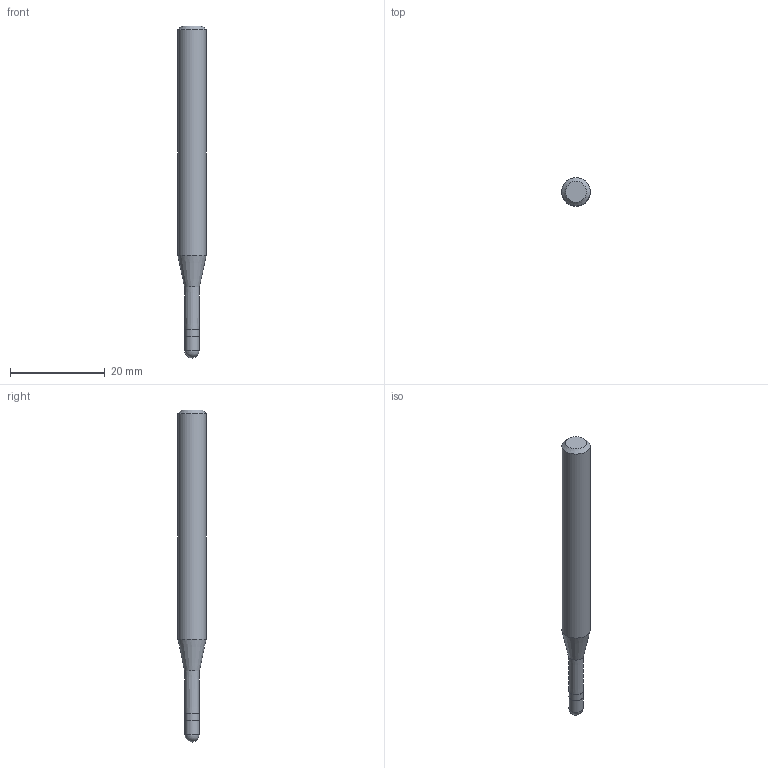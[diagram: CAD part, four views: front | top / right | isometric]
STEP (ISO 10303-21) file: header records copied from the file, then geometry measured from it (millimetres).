
FILE_DESCRIPTION((''),'2;1');
FILE_NAME('C:\Users\nsx150\AppData\Local\Temp\Mastercam 2021\E0ENTZRV18\TEMP.step','2021-09-02T09:57:08',(''),(''),'STEP Write','Mastercam 2021 ... CNC Software, Inc.','');
FILE_SCHEMA(('AUTOMOTIVE_DESIGN'));
Length unit declared in the file: millimetre
Products named in the file (1): None
Bounding box: 6 x 6 x 70 mm (x, y, z)
Volume: 1579.7 mm3; surface area: 1185 mm2
Topology: 2 solids, 2 shells, 10 faces, 16 edges, 9 vertices
Faces by surface type: plane 3, cylinder 3, cone 3, sphere 1
Full cylindrical faces by diameter (mm): 2.98 x1, 3 x1, 6 x1
Entity records: 232 total; most frequent: DIRECTION 40, CARTESIAN_POINT 28, AXIS2_PLACEMENT_3D 20, ORIENTED_EDGE 16, EDGE_LOOP 16, STYLED_ITEM 13, ADVANCED_FACE 10, FACE_BOUND 9
